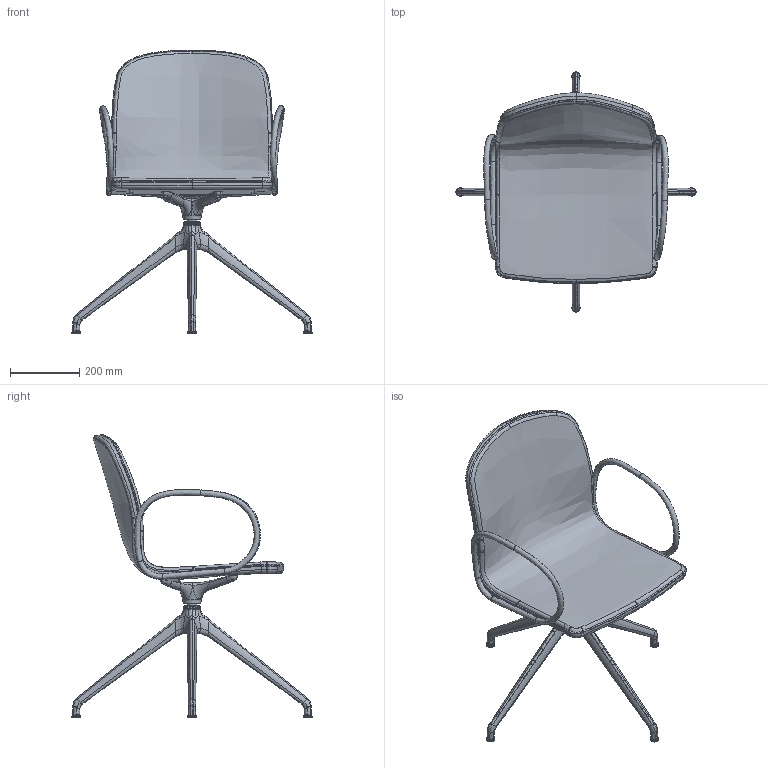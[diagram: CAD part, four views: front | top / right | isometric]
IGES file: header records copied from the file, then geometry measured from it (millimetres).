
Global section: file name: 41f21119-7144-4da1-9ad2-00c725c71cee; native system: unknown; preprocessor: unknown; author: unknown; organization: unknown; date: 20211021.084535; units: millimetre
Bounding box: 693.93 x 693.98 x 819 mm (x, y, z)
Volume: 12750493.4 mm3; surface area: 1544069.3 mm2
Topology: 13 solids, 14 shells, 2590 faces, 6519 edges, 3977 vertices
Faces by surface type: bspline 2586, offset 3, revolution 1
